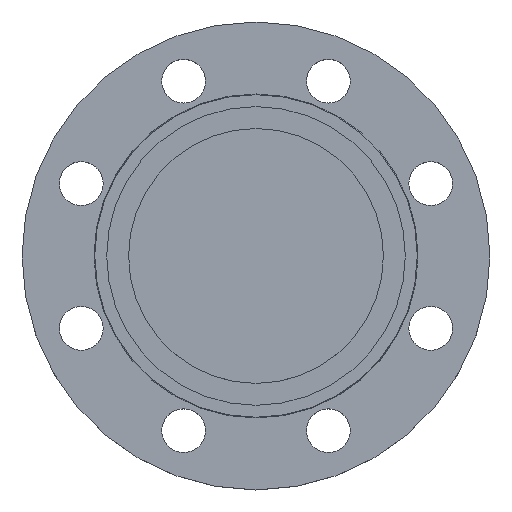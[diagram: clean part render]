
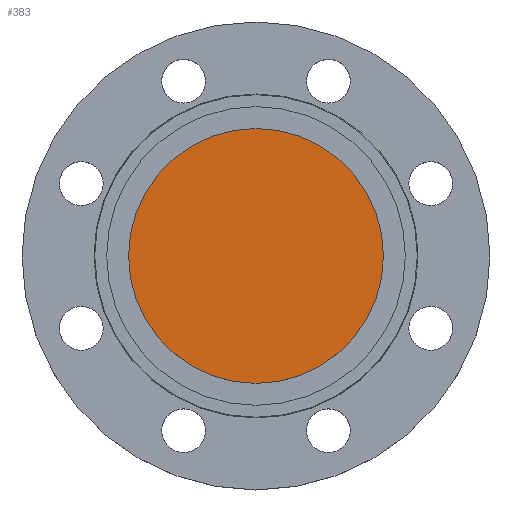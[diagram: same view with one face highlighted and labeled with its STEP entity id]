
A CAD part, top view. The second image highlights one B-rep face of the part: STEP entity #383.
In plain terms, the highlighted planar face has unit normal (0, 0, 1).
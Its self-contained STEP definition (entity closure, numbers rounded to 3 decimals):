
#1 = DIRECTION ( 'NONE',  ( 0., 0., 1. ) ) ;
#67 = DIRECTION ( 'NONE',  ( 0., 0., -1. ) ) ;
#96 = DIRECTION ( 'NONE',  ( -1., 0., 0. ) ) ;
#97 = AXIS2_PLACEMENT_3D ( 'NONE', #943, #67, #455 ) ;
#99 = FACE_OUTER_BOUND ( 'NONE', #1175, .T. ) ;
#264 = EDGE_CURVE ( 'NONE', #1107, #626, #1021, .T. ) ;
#335 = CIRCLE ( 'NONE', #886, 64. ) ;
#366 = CARTESIAN_POINT ( 'NONE',  ( -64., 0., 0. ) ) ;
#383 = ADVANCED_FACE ( 'NONE', ( #99 ), #484, .T. ) ;
#384 = DIRECTION ( 'NONE',  ( 1., 0., 0. ) ) ;
#455 = DIRECTION ( 'NONE',  ( -1., 0., 0. ) ) ;
#484 = PLANE ( 'NONE',  #555 ) ;
#555 = AXIS2_PLACEMENT_3D ( 'NONE', #865, #1, #384 ) ;
#569 = CARTESIAN_POINT ( 'NONE',  ( 0., 0., 0. ) ) ;
#626 = VERTEX_POINT ( 'NONE', #1089 ) ;
#812 = EDGE_CURVE ( 'NONE', #626, #1107, #335, .T. ) ;
#863 = ORIENTED_EDGE ( 'NONE', *, *, #264, .F. ) ;
#865 = CARTESIAN_POINT ( 'NONE',  ( 0., 0., 0. ) ) ;
#886 = AXIS2_PLACEMENT_3D ( 'NONE', #569, #963, #96 ) ;
#943 = CARTESIAN_POINT ( 'NONE',  ( 0., 0., 0. ) ) ;
#963 = DIRECTION ( 'NONE',  ( 0., 0., -1. ) ) ;
#1021 = CIRCLE ( 'NONE', #97, 64. ) ;
#1089 = CARTESIAN_POINT ( 'NONE',  ( 64., 0., 0. ) ) ;
#1107 = VERTEX_POINT ( 'NONE', #366 ) ;
#1175 = EDGE_LOOP ( 'NONE', ( #863, #1205 ) ) ;
#1205 = ORIENTED_EDGE ( 'NONE', *, *, #812, .F. ) ;
